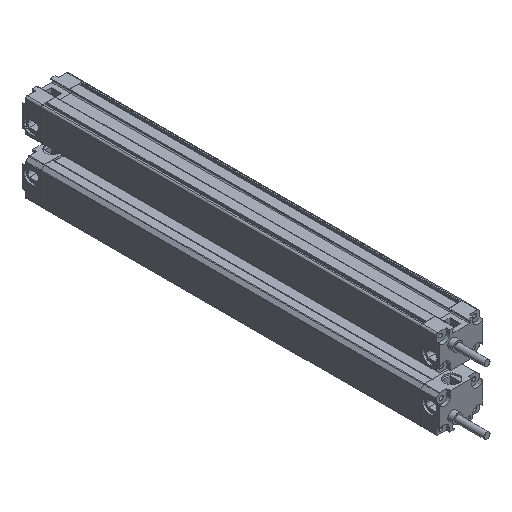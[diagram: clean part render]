
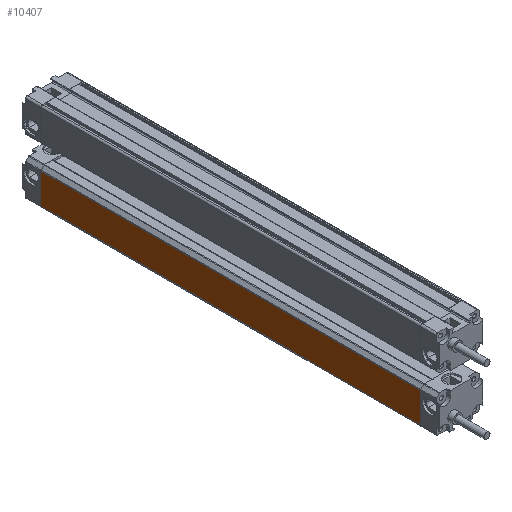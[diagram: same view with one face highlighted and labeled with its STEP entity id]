
A CAD part, isometric view. The second image highlights one B-rep face of the part: STEP entity #10407.
In plain terms, the highlighted planar face has unit normal (-1, 0, 0).
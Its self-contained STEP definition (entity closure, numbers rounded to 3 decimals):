
#12 = EDGE_CURVE ( 'NONE', #6866, #6748, #10103, .T. ) ;
#528 = CARTESIAN_POINT ( 'NONE',  ( -12.5, -220., -9.2 ) ) ;
#576 = CARTESIAN_POINT ( 'NONE',  ( -12.5, -220., 8.293 ) ) ;
#651 = LINE ( 'NONE', #10681, #9402 ) ;
#748 = ORIENTED_EDGE ( 'NONE', *, *, #4640, .T. ) ;
#1121 = EDGE_CURVE ( 'NONE', #9880, #6866, #7808, .T. ) ;
#1589 = DIRECTION ( 'NONE',  ( 0., 0., 1. ) ) ;
#2405 = ORIENTED_EDGE ( 'NONE', *, *, #12, .F. ) ;
#3741 = CARTESIAN_POINT ( 'NONE',  ( -12.5, -220., -9.2 ) ) ;
#3779 = DIRECTION ( 'NONE',  ( 0., 0., 1. ) ) ;
#3908 = DIRECTION ( 'NONE',  ( 0., 1., 0. ) ) ;
#4106 = VECTOR ( 'NONE', #6442, 1000. ) ;
#4275 = CARTESIAN_POINT ( 'NONE',  ( -12.5, -220., -9.2 ) ) ;
#4557 = ORIENTED_EDGE ( 'NONE', *, *, #1121, .F. ) ;
#4640 = EDGE_CURVE ( 'NONE', #7568, #6748, #651, .T. ) ;
#4706 = CARTESIAN_POINT ( 'NONE',  ( -12.5, 0., 8.293 ) ) ;
#4860 = VECTOR ( 'NONE', #3779, 1000. ) ;
#5955 = CARTESIAN_POINT ( 'NONE',  ( -12.5, 0., -9.2 ) ) ;
#6442 = DIRECTION ( 'NONE',  ( 0., 1., 0. ) ) ;
#6748 = VERTEX_POINT ( 'NONE', #4706 ) ;
#6866 = VERTEX_POINT ( 'NONE', #5955 ) ;
#6921 = EDGE_CURVE ( 'NONE', #9880, #7568, #7111, .T. ) ;
#7111 = LINE ( 'NONE', #3741, #4860 ) ;
#7558 = DIRECTION ( 'NONE',  ( -1., 0., 0. ) ) ;
#7568 = VERTEX_POINT ( 'NONE', #576 ) ;
#7769 = EDGE_LOOP ( 'NONE', ( #2405, #4557, #10308, #748 ) ) ;
#7808 = LINE ( 'NONE', #528, #4106 ) ;
#7824 = VECTOR ( 'NONE', #7936, 1000. ) ;
#7936 = DIRECTION ( 'NONE',  ( 0., 0., 1. ) ) ;
#8049 = CARTESIAN_POINT ( 'NONE',  ( -12.5, 0., -9.2 ) ) ;
#8928 = AXIS2_PLACEMENT_3D ( 'NONE', #4275, #7558, #1589 ) ;
#9076 = CARTESIAN_POINT ( 'NONE',  ( -12.5, -220., -9.2 ) ) ;
#9402 = VECTOR ( 'NONE', #3908, 1000. ) ;
#9592 = FACE_OUTER_BOUND ( 'NONE', #7769, .T. ) ;
#9880 = VERTEX_POINT ( 'NONE', #9076 ) ;
#10103 = LINE ( 'NONE', #8049, #7824 ) ;
#10308 = ORIENTED_EDGE ( 'NONE', *, *, #6921, .T. ) ;
#10407 = ADVANCED_FACE ( 'NONE', ( #9592 ), #10870, .T. ) ;
#10681 = CARTESIAN_POINT ( 'NONE',  ( -12.5, -220., 8.293 ) ) ;
#10870 = PLANE ( 'NONE',  #8928 ) ;
